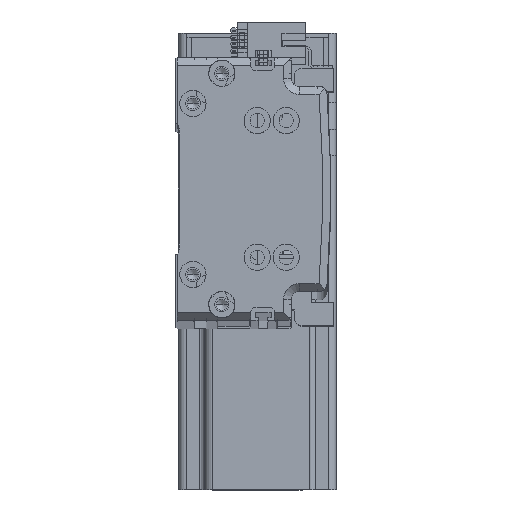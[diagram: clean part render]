
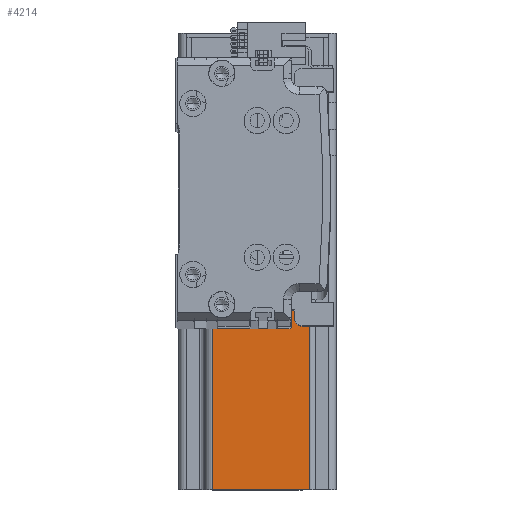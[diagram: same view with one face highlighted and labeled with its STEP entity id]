
A CAD part, top view. The second image highlights one B-rep face of the part: STEP entity #4214.
In plain terms, the highlighted planar face has unit normal (0, 0, 1) as drawn and (-1, 0, 0) by its records, which use the part's own axes.
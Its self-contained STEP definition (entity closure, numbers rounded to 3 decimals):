
#27 = CARTESIAN_POINT ( 'NONE',  ( -30., -27., 0. ) ) ;
#106 = LINE ( 'NONE', #60374, #11814 ) ;
#712 = EDGE_CURVE ( 'NONE', #28668, #63114, #106, .T. ) ;
#1969 = LINE ( 'NONE', #12730, #15226 ) ;
#3337 = LINE ( 'NONE', #35160, #42995 ) ;
#4214 = ADVANCED_FACE ( 'NONE', ( #37346 ), #25161, .F. ) ;
#4550 = CARTESIAN_POINT ( 'NONE',  ( -30., 20., 10. ) ) ;
#7355 = VECTOR ( 'NONE', #27109, 1000. ) ;
#8556 = VECTOR ( 'NONE', #38753, 1000. ) ;
#10582 = EDGE_LOOP ( 'NONE', ( #14089, #16314, #30236, #39526, #55537, #63677, #57929, #59850 ) ) ;
#11221 = LINE ( 'NONE', #4550, #52402 ) ;
#11814 = VECTOR ( 'NONE', #35663, 1000. ) ;
#12730 = CARTESIAN_POINT ( 'NONE',  ( -30., -17., 137. ) ) ;
#14089 = ORIENTED_EDGE ( 'NONE', *, *, #34969, .F. ) ;
#15226 = VECTOR ( 'NONE', #42480, 1000. ) ;
#16314 = ORIENTED_EDGE ( 'NONE', *, *, #57636, .T. ) ;
#16491 = CARTESIAN_POINT ( 'NONE',  ( -30., 20., 137. ) ) ;
#17047 = EDGE_CURVE ( 'NONE', #30676, #29595, #63055, .T. ) ;
#20078 = EDGE_CURVE ( 'NONE', #28765, #28668, #11221, .T. ) ;
#20342 = DIRECTION ( 'NONE',  ( 1., 0., 0. ) ) ;
#20747 = VECTOR ( 'NONE', #61397, 1000. ) ;
#21191 = VERTEX_POINT ( 'NONE', #29637 ) ;
#22208 = CARTESIAN_POINT ( 'NONE',  ( -30., 27., 10. ) ) ;
#22589 = CARTESIAN_POINT ( 'NONE',  ( -30., -27., 10. ) ) ;
#23423 = VECTOR ( 'NONE', #58019, 1000. ) ;
#25161 = PLANE ( 'NONE',  #27437 ) ;
#27109 = DIRECTION ( 'NONE',  ( 0., 0., -1. ) ) ;
#27437 = AXIS2_PLACEMENT_3D ( 'NONE', #50083, #20342, #55086 ) ;
#28668 = VERTEX_POINT ( 'NONE', #16491 ) ;
#28765 = VERTEX_POINT ( 'NONE', #31948 ) ;
#29097 = CARTESIAN_POINT ( 'NONE',  ( -30., -17., 137. ) ) ;
#29595 = VERTEX_POINT ( 'NONE', #27 ) ;
#29637 = CARTESIAN_POINT ( 'NONE',  ( -30., -17., 10. ) ) ;
#30236 = ORIENTED_EDGE ( 'NONE', *, *, #712, .F. ) ;
#30676 = VERTEX_POINT ( 'NONE', #36141 ) ;
#31948 = CARTESIAN_POINT ( 'NONE',  ( -30., 20., 10. ) ) ;
#33847 = LINE ( 'NONE', #56849, #7355 ) ;
#34969 = EDGE_CURVE ( 'NONE', #21191, #60703, #48703, .T. ) ;
#35160 = CARTESIAN_POINT ( 'NONE',  ( -30., 30., 10. ) ) ;
#35663 = DIRECTION ( 'NONE',  ( 0., -1., 0. ) ) ;
#36074 = EDGE_CURVE ( 'NONE', #38060, #30676, #33847, .T. ) ;
#36141 = CARTESIAN_POINT ( 'NONE',  ( -30., 27., 0. ) ) ;
#36449 = CARTESIAN_POINT ( 'NONE',  ( -30., -30., 10. ) ) ;
#36538 = LINE ( 'NONE', #58905, #8556 ) ;
#37346 = FACE_OUTER_BOUND ( 'NONE', #10582, .T. ) ;
#38060 = VERTEX_POINT ( 'NONE', #22208 ) ;
#38065 = CARTESIAN_POINT ( 'NONE',  ( -30., -30., 0. ) ) ;
#38753 = DIRECTION ( 'NONE',  ( 0., 0., 1. ) ) ;
#39353 = DIRECTION ( 'NONE',  ( 0., 0., 1. ) ) ;
#39526 = ORIENTED_EDGE ( 'NONE', *, *, #20078, .F. ) ;
#42480 = DIRECTION ( 'NONE',  ( 0., 0., 1. ) ) ;
#42995 = VECTOR ( 'NONE', #45101, 1000. ) ;
#45101 = DIRECTION ( 'NONE',  ( 0., 1., 0. ) ) ;
#46940 = EDGE_CURVE ( 'NONE', #28765, #38060, #3337, .T. ) ;
#48703 = LINE ( 'NONE', #36449, #20747 ) ;
#50083 = CARTESIAN_POINT ( 'NONE',  ( -30., -30., 137. ) ) ;
#52402 = VECTOR ( 'NONE', #39353, 1000. ) ;
#55086 = DIRECTION ( 'NONE',  ( 0., 0., -1. ) ) ;
#55537 = ORIENTED_EDGE ( 'NONE', *, *, #46940, .T. ) ;
#56849 = CARTESIAN_POINT ( 'NONE',  ( -30., 27., 137. ) ) ;
#57636 = EDGE_CURVE ( 'NONE', #21191, #63114, #1969, .T. ) ;
#57929 = ORIENTED_EDGE ( 'NONE', *, *, #17047, .T. ) ;
#58019 = DIRECTION ( 'NONE',  ( 0., -1., 0. ) ) ;
#58905 = CARTESIAN_POINT ( 'NONE',  ( -30., -27., 137. ) ) ;
#59176 = EDGE_CURVE ( 'NONE', #29595, #60703, #36538, .T. ) ;
#59850 = ORIENTED_EDGE ( 'NONE', *, *, #59176, .T. ) ;
#60374 = CARTESIAN_POINT ( 'NONE',  ( -30., -30., 137. ) ) ;
#60703 = VERTEX_POINT ( 'NONE', #22589 ) ;
#61397 = DIRECTION ( 'NONE',  ( 0., -1., 0. ) ) ;
#63055 = LINE ( 'NONE', #38065, #23423 ) ;
#63114 = VERTEX_POINT ( 'NONE', #29097 ) ;
#63677 = ORIENTED_EDGE ( 'NONE', *, *, #36074, .T. ) ;
